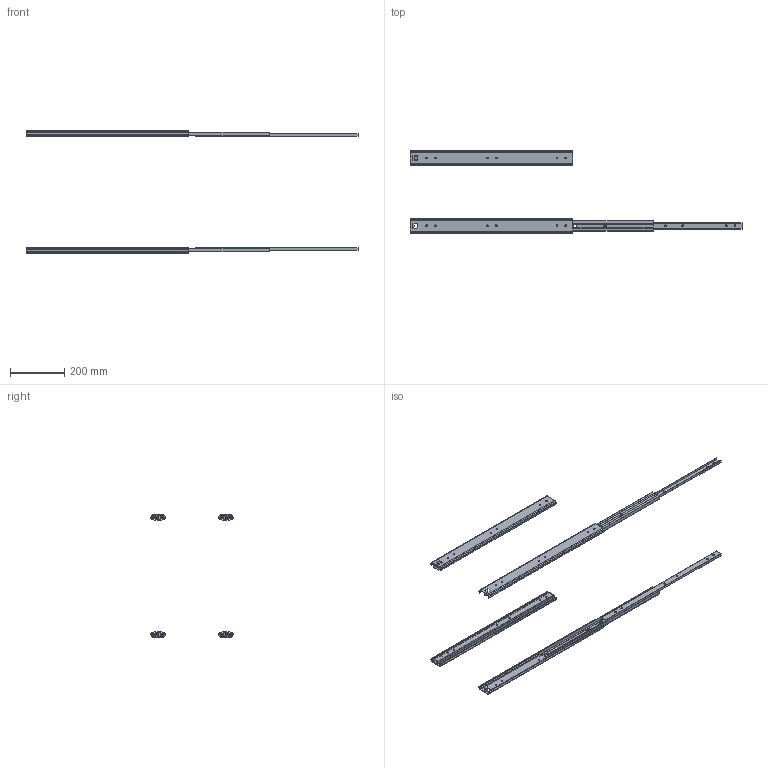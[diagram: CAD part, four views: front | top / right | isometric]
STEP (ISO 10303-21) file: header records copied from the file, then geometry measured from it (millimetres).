
FILE_DESCRIPTION((''),'2;1');
FILE_NAME('D:\01 WORK\DIST\02172A-Drawings for website\5321\DZ5321-00\STEP\5321-0060.stp','2010-08-17T11:18:36',('jthatch'),(''),'Autodesk Inventor 2009','Autodesk Inventor 2009','');
FILE_SCHEMA(('AUTOMOTIVE_DESIGN { 1 0 10303 214 1 1 1 1 }'));
Length unit declared in the file: millimetre
Products named in the file (4): 5321-0060; 5321-0060 Outer Member; 5321-0060 Inter; 5321-0060 Inner Member
Assembly tree (12 placements, depth 2):
  5321-0060
    5321-0060 Outer Member  x4
    5321-0060 Inter  x4
    5321-0060 Inner Member  x4
Bounding box: 1223.5 x 303.1 x 450 mm (x, y, z)
Volume: 834717.2 mm3; surface area: 862684.6 mm2
Topology: 12 solids, 12 shells, 420 faces, 1304 edges, 868 vertices
Faces by surface type: plane 280, cylinder 92, bspline 48
Full cylindrical faces by diameter (mm): 11.4 x12
Entity records: 3879 total; most frequent: CARTESIAN_POINT 823, DIRECTION 610, ORIENTED_EDGE 592, EDGE_CURVE 296, AXIS2_PLACEMENT_3D 205, VERTEX_POINT 202, VECTOR 200, LINE 200
